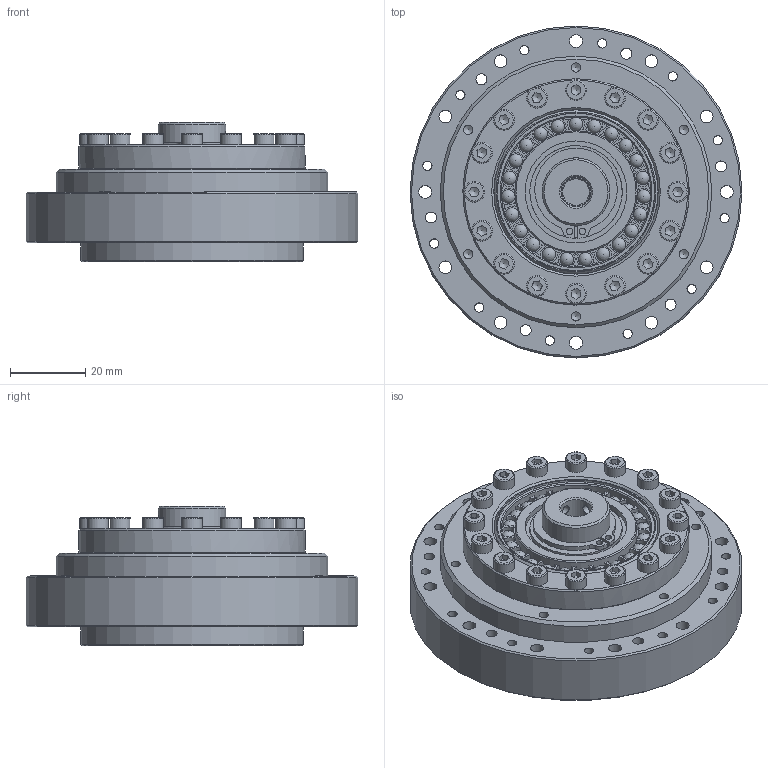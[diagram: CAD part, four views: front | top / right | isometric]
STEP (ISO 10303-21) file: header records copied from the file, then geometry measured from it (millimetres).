
FILE_DESCRIPTION(/* description */ (''),/* implementation_level */ '2;1');
FILE_NAME(/* name */ 'C:\Users\yin210\Desktop\CPU\17\DSC-17-PO-M.stp',/* time_stamp */ '2022-05-18T10:31:30+08:00',/* author */ ('yin210'),/* organization */ (''),/* preprocessor_version */ 'ST-DEVELOPER v15.2',/* originating_system */ 'Autodesk Inventor 2014',/* authorisation */ '');
FILE_SCHEMA (('AUTOMOTIVE_DESIGN { 1 0 10303 214 3 1 1 }'));
Length unit declared in the file: centimetre
Products named in the file (1): DSC-17-PO-M
Bounding box: 88 x 88 x 37 mm (x, y, z)
Volume: 118818 mm3; surface area: 34810.8 mm2
Topology: 1 solids, 5 shells, 612 faces, 1541 edges, 1008 vertices
Faces by surface type: plane 262, cylinder 225, cone 72, torus 30, sphere 23
Full cylindrical faces by diameter (mm): 1.7 x2, 2 x4, 2.459 x20, 2.9 x6, 3.242 x20, 3.4 x12, 5.5 x22, 7 x9, 8 x1, 10 x1, 17 x1, 18 x2, 18.6 x1, 24.5 x1, 27 x1, 29 x1, 29.8 x1, 32.46 x1, 37 x1, 39.66 x1, 41.62 x1, 45 x1, 59 x1, 60 x1, 72 x1, 88 x1
Entity records: 16358 total; most frequent: CARTESIAN_POINT 3129, DIRECTION 2802, ORIENTED_EDGE 2296, AXIS2_PLACEMENT_3D 1195, EDGE_CURVE 1148, EDGE_LOOP 986, VERTEX_POINT 852, ADVANCED_FACE 612
